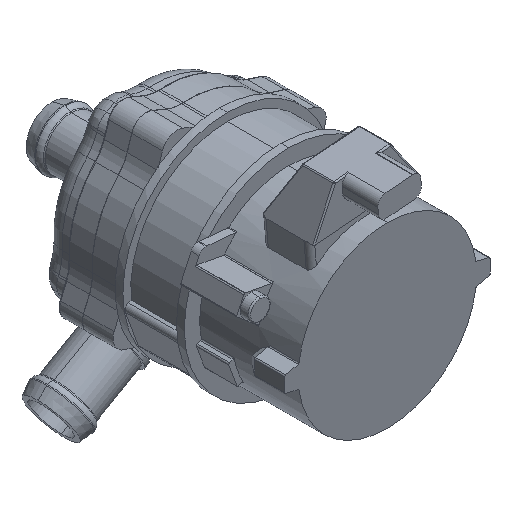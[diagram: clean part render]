
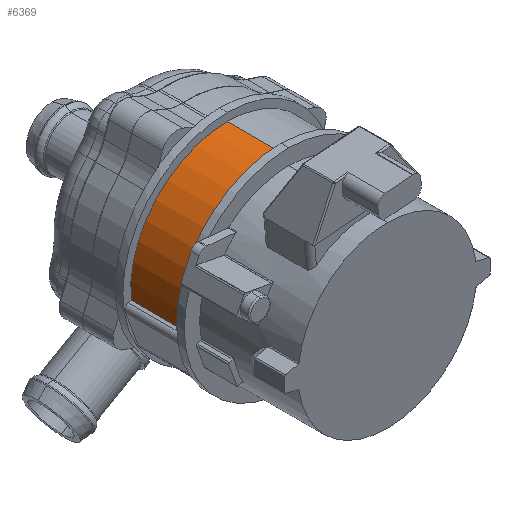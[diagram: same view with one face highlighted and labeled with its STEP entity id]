
A CAD part, isometric view. The second image highlights one B-rep face of the part: STEP entity #6369.
In plain terms, the highlighted cylindrical face has radius 37 mm (diameter 74 mm), a partial arc.
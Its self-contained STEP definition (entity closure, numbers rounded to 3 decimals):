
#286 = CYLINDRICAL_SURFACE ( 'NONE', #2498, 37. ) ;
#340 = AXIS2_PLACEMENT_3D ( 'NONE', #8573, #9842, #1250 ) ;
#477 = CARTESIAN_POINT ( 'NONE',  ( -36.803, 61.2, -3.817 ) ) ;
#1209 = ORIENTED_EDGE ( 'NONE', *, *, #12614, .T. ) ;
#1250 = DIRECTION ( 'NONE',  ( 0., 0., 1. ) ) ;
#1382 = VERTEX_POINT ( 'NONE', #8882 ) ;
#1550 = EDGE_CURVE ( 'NONE', #1382, #13768, #7248, .T. ) ;
#2498 = AXIS2_PLACEMENT_3D ( 'NONE', #7307, #12293, #12194 ) ;
#2505 = EDGE_CURVE ( 'NONE', #15766, #6607, #11050, .T. ) ;
#3313 = VECTOR ( 'NONE', #15070, 1000. ) ;
#3954 = CIRCLE ( 'NONE', #4826, 37. ) ;
#4110 = ORIENTED_EDGE ( 'NONE', *, *, #14023, .F. ) ;
#4826 = AXIS2_PLACEMENT_3D ( 'NONE', #10177, #13802, #5204 ) ;
#5204 = DIRECTION ( 'NONE',  ( 0., 0., 1. ) ) ;
#6369 = ADVANCED_FACE ( 'NONE', ( #8992 ), #286, .T. ) ;
#6607 = VERTEX_POINT ( 'NONE', #7879 ) ;
#7248 = LINE ( 'NONE', #15892, #9933 ) ;
#7307 = CARTESIAN_POINT ( 'NONE',  ( 0., 61.2, 0. ) ) ;
#7313 = EDGE_LOOP ( 'NONE', ( #9670, #4110, #8478, #1209 ) ) ;
#7879 = CARTESIAN_POINT ( 'NONE',  ( 0., 40.7, 37. ) ) ;
#8414 = DIRECTION ( 'NONE',  ( 0., 1., 0. ) ) ;
#8478 = ORIENTED_EDGE ( 'NONE', *, *, #1550, .F. ) ;
#8573 = CARTESIAN_POINT ( 'NONE',  ( 0., 40.7, 0. ) ) ;
#8882 = CARTESIAN_POINT ( 'NONE',  ( -36.803, 40.7, -3.817 ) ) ;
#8992 = FACE_OUTER_BOUND ( 'NONE', #7313, .T. ) ;
#9439 = CIRCLE ( 'NONE', #340, 37. ) ;
#9670 = ORIENTED_EDGE ( 'NONE', *, *, #2505, .F. ) ;
#9842 = DIRECTION ( 'NONE',  ( 0., 1., 0. ) ) ;
#9933 = VECTOR ( 'NONE', #8414, 1000. ) ;
#10177 = CARTESIAN_POINT ( 'NONE',  ( 0., 61.2, 0. ) ) ;
#11050 = LINE ( 'NONE', #15186, #3313 ) ;
#11487 = CARTESIAN_POINT ( 'NONE',  ( 0., 61.2, 37. ) ) ;
#12194 = DIRECTION ( 'NONE',  ( 0., 0., -1. ) ) ;
#12293 = DIRECTION ( 'NONE',  ( 0., -1., 0. ) ) ;
#12614 = EDGE_CURVE ( 'NONE', #1382, #6607, #9439, .T. ) ;
#13768 = VERTEX_POINT ( 'NONE', #477 ) ;
#13802 = DIRECTION ( 'NONE',  ( 0., 1., 0. ) ) ;
#14023 = EDGE_CURVE ( 'NONE', #13768, #15766, #3954, .T. ) ;
#15070 = DIRECTION ( 'NONE',  ( 0., -1., 0. ) ) ;
#15186 = CARTESIAN_POINT ( 'NONE',  ( 0., 61.2, 37. ) ) ;
#15766 = VERTEX_POINT ( 'NONE', #11487 ) ;
#15892 = CARTESIAN_POINT ( 'NONE',  ( -36.803, 61.2, -3.817 ) ) ;
